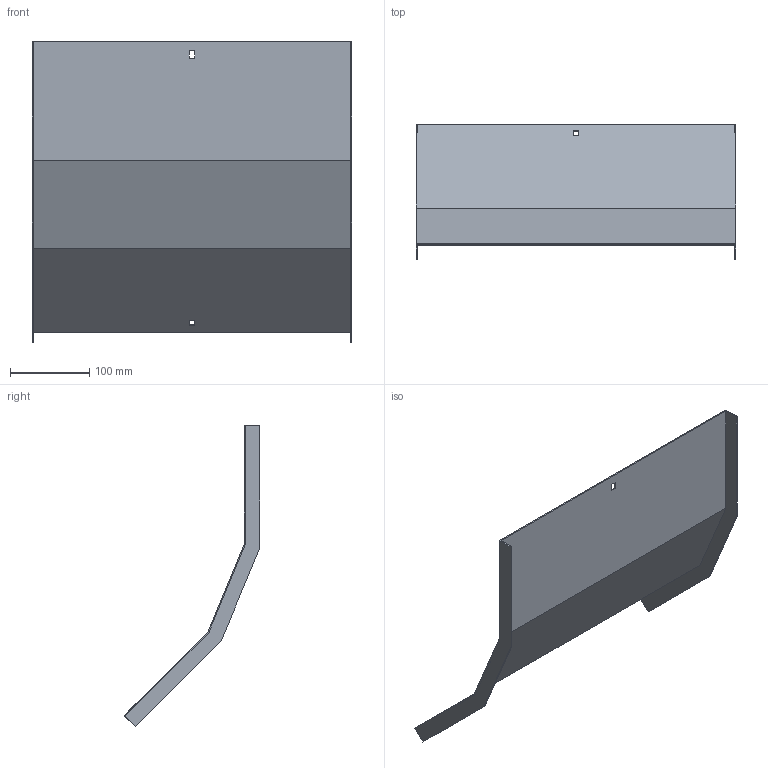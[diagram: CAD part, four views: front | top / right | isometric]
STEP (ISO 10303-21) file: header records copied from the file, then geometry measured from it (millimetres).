
FILE_DESCRIPTION (( 'STEP AP214' ), '1' );
FILE_NAME ('A2X31N3R400X.step', '2025-03-20T09:41:07', ( '' ), ( '' ), 'SwSTEP 2.0', 'SolidWorks 2023', '' );
FILE_SCHEMA (( 'AUTOMOTIVE_DESIGN' ));
Length unit declared in the file: millimetre
Products named in the file (1): A2X31N3R400X
Bounding box: 403 x 171.43 x 379.72 mm (x, y, z)
Volume: 276869.9 mm3; surface area: 371874.4 mm2
Topology: 1 solids, 1 shells, 26 faces, 72 edges, 48 vertices
Faces by surface type: plane 26
Entity records: 847 total; most frequent: CARTESIAN_POINT 147, ORIENTED_EDGE 144, DIRECTION 126, EDGE_CURVE 72, VECTOR 72, LINE 72, VERTEX_POINT 48, EDGE_LOOP 30
